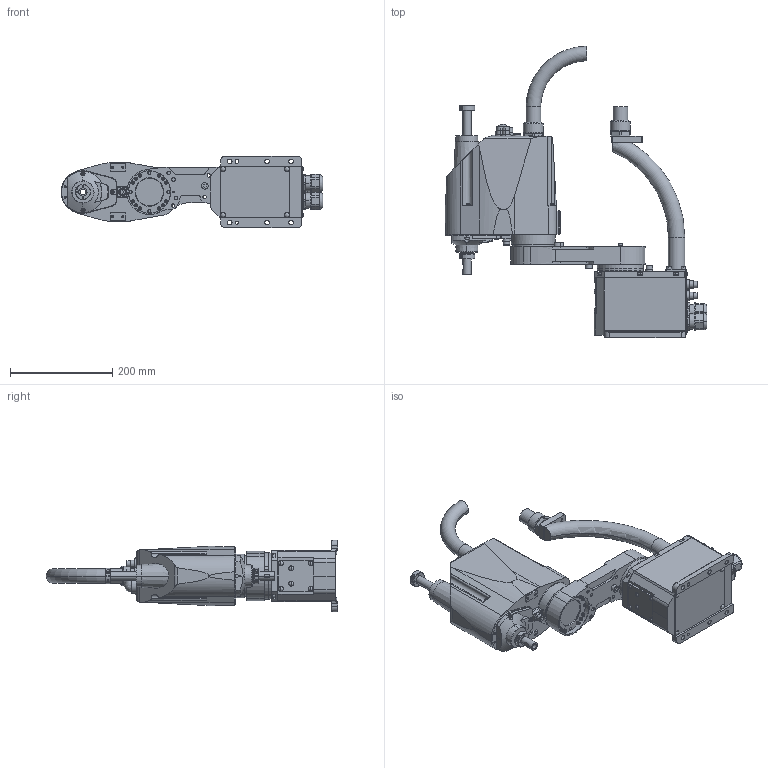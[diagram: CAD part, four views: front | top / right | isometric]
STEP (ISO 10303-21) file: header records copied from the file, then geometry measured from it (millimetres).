
FILE_DESCRIPTION( ( '' ), '1' );
FILE_NAME( '//expscmdclustefs.cadenas.external/client_exchange/iodir/jobs/output/wkb51507029_no0/STEP/G3_301S_L_2_03.stp', '2012-11-22T13:51:48', ( '' ), ( '' ), ' ', ' ', ' ' );
FILE_SCHEMA( ( 'CONFIG_CONTROL_DESIGN' ) );
Length unit declared in the file: millimetre
Products named in the file (4): 1; 2; 3; 4
Bounding box: 511.5 x 570 x 140 mm (x, y, z)
Volume: 7505932 mm3; surface area: 524934.4 mm2
Topology: 4 solids, 4 shells, 1826 faces, 4548 edges, 2929 vertices
Faces by surface type: plane 859, cylinder 671, cone 181, torus 78, sphere 37
Entity records: 56348 total; most frequent: CARTESIAN_POINT 11176, DIRECTION 9888, ORIENTED_EDGE 9036, EDGE_CURVE 4518, AXIS2_PLACEMENT_3D 3684, VERTEX_POINT 2929, LINE 2520, VECTOR 2520
